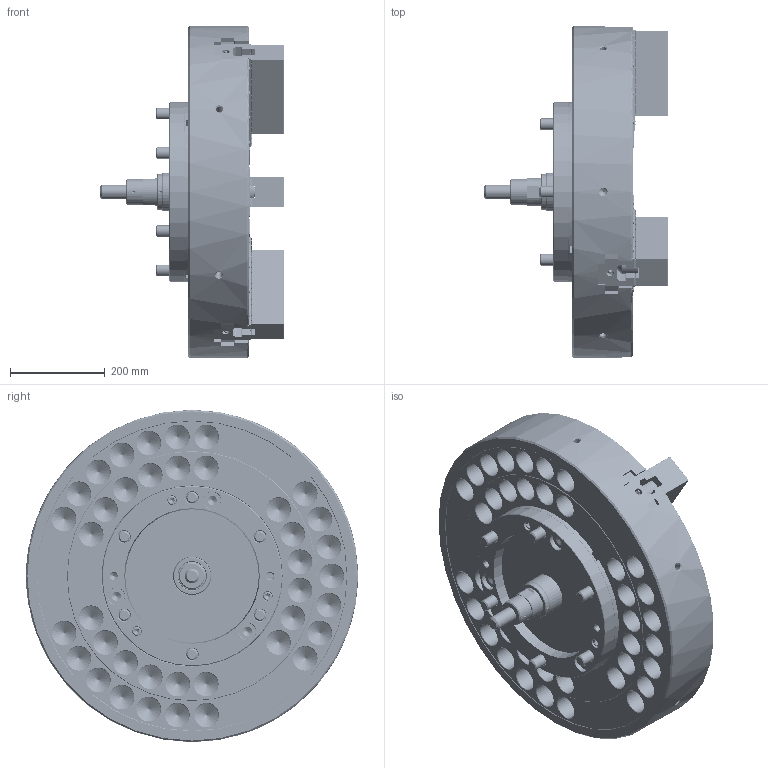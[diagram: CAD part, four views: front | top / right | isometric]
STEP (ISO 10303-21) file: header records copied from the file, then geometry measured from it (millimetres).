
FILE_DESCRIPTION (( 'STEP AP214' ), '1' );
FILE_NAME ('DT1_NV28C15_OUTSIDE_VIEW_OC.STEP', '2026-03-24T05:28:01', ( '' ), ( '' ), 'SwSTEP 2.0', 'SolidWorks 2022', '' );
FILE_SCHEMA (( 'AUTOMOTIVE_DESIGN' ));
Length unit declared in the file: millimetre
Products named in the file (18): DT1_NV28C15_CAP^DT1_NV28C1500; DT1_NV28C15_M24x160^DT1_NV28C1500; DT1_NV28C15_P80^DT1_NV28C1500_円筒用; DT1_NV28C15_ORING^DT1_NV28C1500; DT1_NV28C15_COVER^DT1_NV28C1500; DT1_NV28C15_BASE^DT1_NV28C1500; DT1_NV28C15_OUTSIDE_VIEW_OC; DT1_NV28C15_DN^DT1_NV28C1500; DT1_NV28C15_BP^DT1_NV28C1500; Copy of 61P321208^DT1_NV28C1500; DT1_NV28C15_M6x12^DT1_NV28C1500; DT1_NV28C15_COVERFOOTER^DT1_NV28C1500; DT1_NV28C15_TNUT^DT1_NV28C1500; DT1_NV28C15_M20x60^DT1_NV28C1500; DT1_NV28C15_S39^DT1_NV28C1500_円筒用; DT1_NV28C15_SOFTJAW^DT1_NV28C1500; Copy of 0030112055^DT1_NV28C1500; DT1_NV28C15_DRAWSCREW^DT1_NV28C1500
Assembly tree (48 placements, depth 2):
  DT1_NV28C15_OUTSIDE_VIEW_OC
    DT1_NV28C15_SOFTJAW^DT1_NV28C1500  x3
    DT1_NV28C15_TNUT^DT1_NV28C1500  x6
    DT1_NV28C15_COVER^DT1_NV28C1500
    DT1_NV28C15_DRAWSCREW^DT1_NV28C1500
    Copy of 61P321208^DT1_NV28C1500
    DT1_NV28C15_COVERFOOTER^DT1_NV28C1500
    DT1_NV28C15_M6x12^DT1_NV28C1500  x6
    Copy of 0030112055^DT1_NV28C1500  x3
    DT1_NV28C15_M20x60^DT1_NV28C1500  x6
    DT1_NV28C15_M24x160^DT1_NV28C1500  x6
    DT1_NV28C15_S39^DT1_NV28C1500_円筒用
    DT1_NV28C15_P80^DT1_NV28C1500_円筒用
    DT1_NV28C15_CAP^DT1_NV28C1500  x6
    DT1_NV28C15_ORING^DT1_NV28C1500  x3
    DT1_NV28C15_DN^DT1_NV28C1500
    DT1_NV28C15_BP^DT1_NV28C1500
    DT1_NV28C15_BASE^DT1_NV28C1500
Bounding box: 387 x 700 x 700 mm (x, y, z)
Volume: 48209097.1 mm3; surface area: 2885441 mm2
Topology: 48 solids, 114 shells, 10560 faces, 29377 edges, 19105 vertices
Faces by surface type: plane 6165, cylinder 2123, cone 1076, bspline 1042, torus 148, sphere 6
Entity records: 304428 total; most frequent: CARTESIAN_POINT 94520, ORIENTED_EDGE 46794, DIRECTION 38067, EDGE_CURVE 23397, VECTOR 16493, LINE 16493, VERTEX_POINT 15359, AXIS2_PLACEMENT_3D 10787
